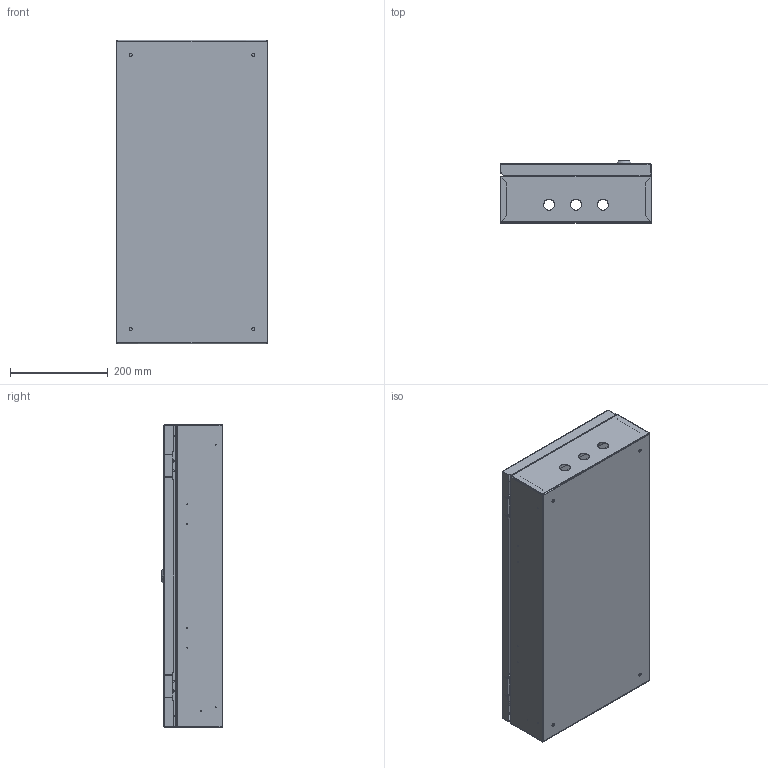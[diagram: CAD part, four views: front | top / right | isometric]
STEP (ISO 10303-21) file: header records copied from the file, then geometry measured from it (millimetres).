
FILE_DESCRIPTION (( 'STEP AP214' ), '1' );
FILE_NAME ('ÙÐí-48-620õ310õ120-IP54-ÓÕË2-ÊÝÀÇ.STEP', '2023-01-24T13:24:48', ( '' ), ( '' ), 'SwSTEP 2.0', 'SolidWorks 2018', '' );
FILE_SCHEMA (( 'AUTOMOTIVE_DESIGN' ));
Length unit declared in the file: millimetre
Products named in the file (1): ÙÐí-48-620õ310õ120-IP54-ÓÕË2-ÊÝÀÇ
Bounding box: 310 x 126.4 x 620 mm (x, y, z)
Surface area: 1462275.6 mm2 (no closed solid volume)
Topology: 0 solids, 33 shells, 190 faces, 796 edges, 628 vertices
Faces by surface type: plane 107, cylinder 67, torus 6, cone 6, bspline 4
Entity records: 11247 total; most frequent: CARTESIAN_POINT 2531, DIRECTION 1386, ORIENTED_EDGE 1092, EDGE_CURVE 796, VERTEX_POINT 628, LINE 464, VECTOR 464, AXIS2_PLACEMENT_3D 461
